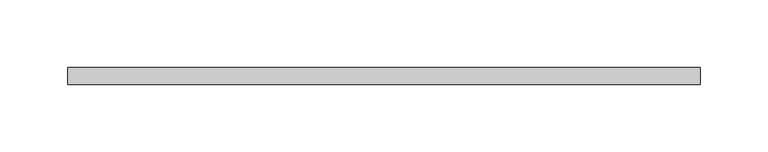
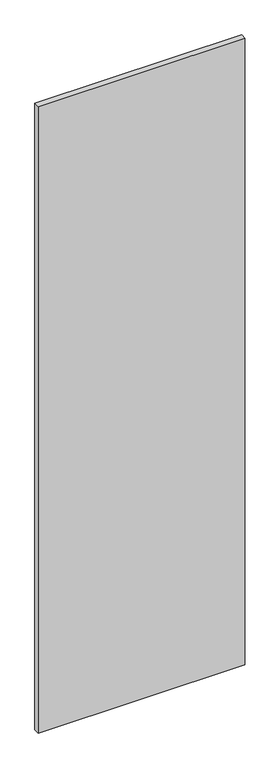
"""IFC4 building model written with IfcOpenShell, lengths in millimetres: proxy geometry, КНАУФ-Суперлист : КНАУФ-Суперлист."""

import ifcopenshell
import ifcopenshell.guid

model = None  # the IFC model being written
_history = None  # IfcOwnerHistory: only IFC2X3 demands one
_inside = {}  # id of a spatial element -> (the spatial element, [elements in it])
_under = {}  # id of a project, library or spatial element -> (it, [spatial elements below it])
_declared = {}  # id of a project -> (the project, [libraries it declares])
_typed = {}  # id of a type object -> (the type object, [elements of that type])
_made_of = {}  # id of a material, layer set ... -> (it, [elements and type objects made of it])


def new_model(schema):
    """Start an empty IFC model of exactly this schema.

    Asked for "IFC4X3", IfcOpenShell would pick the latest addendum, in which some entities
    have other attributes; the version numbers below select the first issue.
    IFC2X3 requires an IfcOwnerHistory on every rooted entity: one is made here for all.
    """
    global model, _history
    if schema == "IFC4X3":
        model = ifcopenshell.file(schema_version=(4, 3, 0, 0))
    else:
        model = ifcopenshell.file(schema=schema)
    _inside.clear()
    _under.clear()
    _declared.clear()
    _typed.clear()
    _made_of.clear()
    _history = None
    if model.schema == "IFC2X3":
        org = make("IfcOrganization", Name="unknown")
        user = make(
            "IfcPersonAndOrganization",
            ThePerson=make("IfcPerson", FamilyName="unknown"),
            TheOrganization=org,
        )
        app = make(
            "IfcApplication",
            ApplicationDeveloper=org,
            Version="unknown",
            ApplicationFullName="unknown",
            ApplicationIdentifier="unknown",
        )
        _history = make(
            "IfcOwnerHistory",
            OwningUser=user,
            OwningApplication=app,
            ChangeAction="ADDED",
            CreationDate=0,
        )
    return model


def make(cls, **values):
    """One entity of the class cls with the attributes given. An attribute that is None is left unset."""
    return model.create_entity(
        cls, **{name: value for name, value in values.items() if value is not None}
    )


def rooted(cls, **values):
    """An entity with a GlobalId (a new one), such as an element, a storey or a relation."""
    return make(cls, GlobalId=ifcopenshell.guid.new(), OwnerHistory=_history, **values)


def si_unit(unit_type, name, prefix=None):
    """IfcSIUnit, for example si_unit("LENGTHUNIT", "METRE", prefix="MILLI")."""
    return make("IfcSIUnit", UnitType=unit_type, Prefix=prefix, Name=name)


def assignment(units):
    """IfcUnitAssignment: the units of a project."""
    return None if units is None else make("IfcUnitAssignment", Units=units)


def point(xyz):
    """IfcCartesianPoint."""
    return None if xyz is None else make("IfcCartesianPoint", Coordinates=xyz)


def direction(xyz):
    """IfcDirection."""
    return None if xyz is None else make("IfcDirection", DirectionRatios=xyz)


def frame(location, z_axis=None, x_axis=None):
    """IfcAxis2Placement3D, a coordinate frame: its origin and axes. An axis left out is left unset."""
    return make(
        "IfcAxis2Placement3D",
        Location=point(location),
        Axis=direction(z_axis),
        RefDirection=direction(x_axis),
    )


def origin():
    """The frame at (0, 0, 0) with its axes left unset."""
    return frame((0.0, 0.0, 0.0))


def origin_with_axes():
    """The frame at (0, 0, 0) with the z axis (0, 0, 1) and the x axis (1, 0, 0) written out."""
    return frame((0.0, 0.0, 0.0), z_axis=(0.0, 0.0, 1.0), x_axis=(1.0, 0.0, 0.0))


def place(relative_to, where):
    """IfcLocalPlacement: puts the frame where relative to a parent placement (None: the world)."""
    return make(
        "IfcLocalPlacement", PlacementRelTo=relative_to, RelativePlacement=where
    )


def context(
    kind, dimensions, precision=None, world=None, true_north=None, identifier=None
):
    """IfcGeometricRepresentationContext, for example the 3D "Model" context."""
    return make(
        "IfcGeometricRepresentationContext",
        ContextIdentifier=identifier,
        ContextType=kind,
        CoordinateSpaceDimension=dimensions,
        Precision=precision,
        WorldCoordinateSystem=world,
        TrueNorth=true_north,
    )


def project(units=None, contexts=None):
    """IfcProject with its units and contexts."""
    return rooted(
        "IfcProject",
        Name="project",
        RepresentationContexts=contexts,
        UnitsInContext=assignment(units),
    )


def spatial(cls, under=None, at=None, **own):
    """A site, building, storey or space (cls), placed at a placement, below another one or the project."""
    s = rooted(cls, ObjectPlacement=at, **own)
    if under is not None:
        _under.setdefault(under.id(), (under, []))[1].append(s)
    return s


def polyline(points):
    """IfcPolyline through the points."""
    return make("IfcPolyline", Points=[point(p) for p in points])


def outline(outer, holes=None, kind="AREA"):
    """IfcArbitraryClosedProfileDef: a profile drawn as a closed curve; with holes, ...WithVoids."""
    if holes is None:
        return make("IfcArbitraryClosedProfileDef", ProfileType=kind, OuterCurve=outer)
    return make(
        "IfcArbitraryProfileDefWithVoids",
        ProfileType=kind,
        OuterCurve=outer,
        InnerCurves=holes,
    )


def extrude(swept, where, along, depth):
    """IfcExtrudedAreaSolid: the profile swept, set in the frame where, extruded along a direction by depth."""
    return make(
        "IfcExtrudedAreaSolid",
        SweptArea=swept,
        Position=where,
        ExtrudedDirection=direction(along),
        Depth=depth,
    )


def shape(context_of_items, identifier, shape_type, items):
    """IfcShapeRepresentation: the items that make up one representation, for example the "Body"."""
    return make(
        "IfcShapeRepresentation",
        ContextOfItems=context_of_items,
        RepresentationIdentifier=identifier,
        RepresentationType=shape_type,
        Items=items,
    )


def source(mapping_origin, context_of_items, identifier, shape_type, items):
    """IfcRepresentationMap: a shape defined once, which mapped items show again and again."""
    return make(
        "IfcRepresentationMap",
        MappingOrigin=mapping_origin,
        MappedRepresentation=shape(context_of_items, identifier, shape_type, items),
    )


def transform(
    local_origin,
    x_axis=None,
    y_axis=None,
    z_axis=None,
    scale=None,
    scale2=None,
    scale3=None,
    uniform=True,
):
    """IfcCartesianTransformationOperator3D, or its non-uniform kind. x_axis, y_axis, z_axis: its Axis1, 2, 3."""
    if uniform:
        return make(
            "IfcCartesianTransformationOperator3D",
            Axis1=direction(x_axis),
            Axis2=direction(y_axis),
            LocalOrigin=point(local_origin),
            Scale=scale,
            Axis3=direction(z_axis),
        )
    return make(
        "IfcCartesianTransformationOperator3DnonUniform",
        Axis1=direction(x_axis),
        Axis2=direction(y_axis),
        LocalOrigin=point(local_origin),
        Scale=scale,
        Axis3=direction(z_axis),
        Scale2=scale2,
        Scale3=scale3,
    )


def mapped(mapping_source, mapping_target):
    """IfcMappedItem: shows the shape of a source again, moved by a transform."""
    return make(
        "IfcMappedItem", MappingSource=mapping_source, MappingTarget=mapping_target
    )


def made_of(thing, what):
    """Note that an element or type object is made of a material, layer set ...; save() writes the relation."""
    if what is not None:
        _made_of.setdefault(what.id(), (what, []))[1].append(thing)
    return thing


def element(
    cls,
    number,
    at=None,
    inside=None,
    cuts=None,
    type_object=None,
    material=None,
    context=None,
    identifier="Body",
    shape_type=None,
    held_by="IfcProductDefinitionShape",
    body=None,
    shapes=None,
    **own,
):
    """One element of the class cls, such as IfcWall. Its Tag is "e" and its number.

    at: its placement. inside: the storey or other place that contains it. cuts: it is an
    opening in that element (IfcRelVoidsElement). A single representation is given by context,
    identifier, shape_type and body (its items); several are given by shapes. held_by: the class
    of the entity that holds the representations. save() writes the other relations.
    """
    e = rooted(cls, Tag="e%d" % number, ObjectPlacement=at, **own)
    if body is not None:
        shapes = [shape(context, identifier, shape_type, body)]
    if shapes is not None:
        e.Representation = make(held_by, Representations=shapes)
    if inside is not None:
        _inside.setdefault(inside.id(), (inside, []))[1].append(e)
    if cuts is not None:
        rooted(
            "IfcRelVoidsElement", RelatingBuildingElement=cuts, RelatedOpeningElement=e
        )
    if type_object is not None:
        _typed.setdefault(type_object.id(), (type_object, []))[1].append(e)
    return made_of(e, material)


def aggregate(whole, parts):
    """IfcRelAggregates: a whole, such as a stair, and the parts it consists of."""
    return rooted("IfcRelAggregates", RelatingObject=whole, RelatedObjects=parts)


def save(model, path):
    """Write the relations noted so far, then the file.

    IfcRelAggregates (storeys below a building ...), IfcRelContainedInSpatialStructure (elements
    in a storey), IfcRelDefinesByType, IfcRelAssociatesMaterial and IfcRelDeclares: one each for
    every whole, place, type object, material and project.
    """
    for whole, parts in _under.values():
        aggregate(whole, parts)
    for where, things in _inside.values():
        rooted(
            "IfcRelContainedInSpatialStructure",
            RelatedElements=things,
            RelatingStructure=where,
        )
    for kind, things in _typed.values():
        rooted("IfcRelDefinesByType", RelatedObjects=things, RelatingType=kind)
    for what, things in _made_of.values():
        rooted("IfcRelAssociatesMaterial", RelatedObjects=things, RelatingMaterial=what)
    for by, libraries in _declared.values():
        rooted("IfcRelDeclares", RelatingContext=by, RelatedDefinitions=libraries)
    model.write(path)


def generic_models_517ed48a(model_context):
    return source(origin(), model_context, "Body", "SweptSolid", [
        extrude(outline(polyline([(234.0, 0.0), (-234.0, 0.0), (-234.0, 12.5), (234.0, 12.5), (234.0, 0.0)])), origin_with_axes(), (0.0, 0.0, 1.0), 1500.0),
    ])


if __name__ == "__main__":
    model = new_model("IFC4")
    model_context = context("Model", 3, world=origin())
    ifc_project = project(units=[si_unit("LENGTHUNIT", "METRE", prefix="MILLI")], contexts=[model_context])
    site = spatial("IfcSite", under=ifc_project)
    building = spatial("IfcBuilding", under=site)
    placement = place(None, origin())
    generic_models_shape = generic_models_517ed48a(model_context)
    element("IfcBuildingElementProxy", 1, Name="КНАУФ-Суперлист : КНАУФ-Суперлист", ObjectType="КНАУФ-Суперлист : КНАУФ-Суперлист", at=placement, inside=building, context=model_context, shape_type="MappedRepresentation", body=[
        mapped(generic_models_shape, transform((0.0, 0.0, 0.0), x_axis=(1.0, 0.0, 0.0), y_axis=(0.0, 1.0, 0.0), z_axis=(0.0, 0.0, 1.0))),
    ])
    save(model, "model.ifc")
